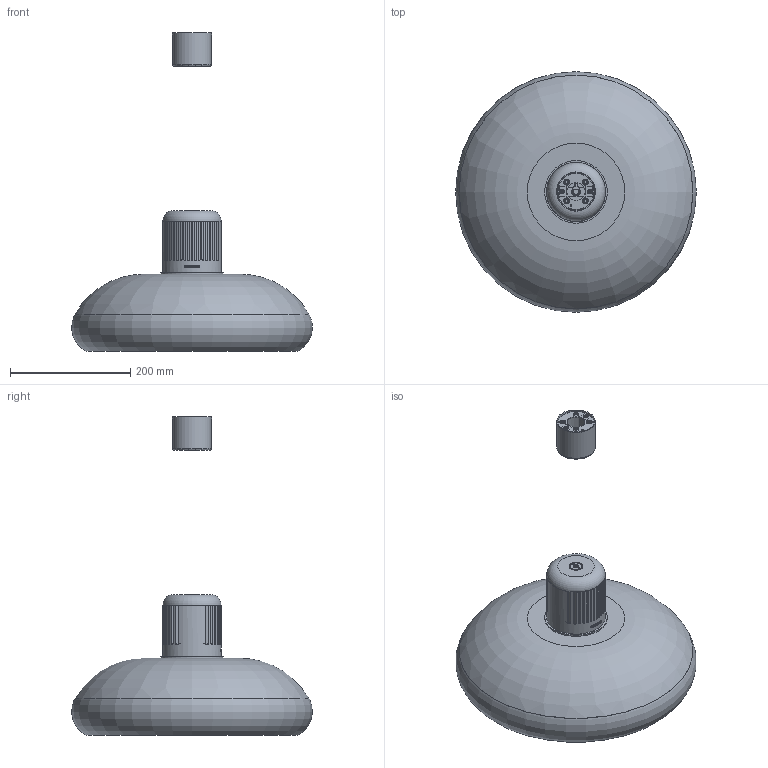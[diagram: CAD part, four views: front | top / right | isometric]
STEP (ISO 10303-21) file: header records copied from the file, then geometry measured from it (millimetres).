
FILE_DESCRIPTION(/* description */ ('Unknown'),/* implementation_level */ '2;1');
FILE_NAME(/* name */ '9305',/* time_stamp */ '2021-03-16T11:46:25+01:00',/* author */ ('Unknown'),/* organization */ ('Unknown'),/* preprocessor_version */ 'ST-DEVELOPER v16.7',/* originating_system */ 'DEX',/* authorisation */ $);
FILE_SCHEMA (('AUTOMOTIVE_DESIGN {1 0 10303 214 3 1 1}'));
Length unit declared in the file: millimetre
Products named in the file (20): 9305-9306-9307-9308; F1220-9; 060000319352; 060000319352_1; O1729-9 (02); 152000362999; 152000362151_1; D1137-3_151; 151001575710; 151001574710; H1261-5; O1729-9_oa_0; O1729-9 (01); F1215-5; 061000358352; 067000103352; 152000360153; 151001578142; F1188-9; H1269-2
Assembly tree (24 placements, depth 3):
  9305-9306-9307-9308
    F1220-9  x2
    060000319352
      060000319352_1
      O1729-9 (02)
    152000362999
      152000362151_1
      D1137-3_151
    151001575710
    151001574710
    H1261-5  x2
    O1729-9_oa_0
      O1729-9 (01)
    F1215-5  x2
    061000358352
    067000103352
    152000360153
    151001578142
    F1188-9  x2
    H1269-2  x2
Bounding box: 399.94 x 399.94 x 529.5 mm (x, y, z)
Volume: 506126.1 mm3; surface area: 614846.6 mm2
Topology: 21 solids, 21 shells, 1044 faces, 2744 edges, 1742 vertices
Faces by surface type: plane 623, cylinder 289, torus 55, cone 55, sphere 18, bspline 4
Full cylindrical faces by diameter (mm): 2.5 x2, 2.7 x1, 3.422 x2, 4 x5, 4.286 x1, 4.3 x2, 4.917 x2, 5 x2, 6 x1, 6.5 x1, 7 x2, 8 x2, 8.917 x2, 9.153 x1, 10 x2, 10.5 x1, 12 x1, 14.5 x2, 20 x1, 22 x1, 30 x1, 60 x1, 63 x1, 65 x1, 98 x2, 99 x1, 104 x1
Entity records: 24367 total; most frequent: CARTESIAN_POINT 4806, DIRECTION 3812, ORIENTED_EDGE 3560, EDGE_CURVE 1780, AXIS2_PLACEMENT_3D 1470, VERTEX_POINT 1184, EDGE_LOOP 892, FACE_BOUND 892
